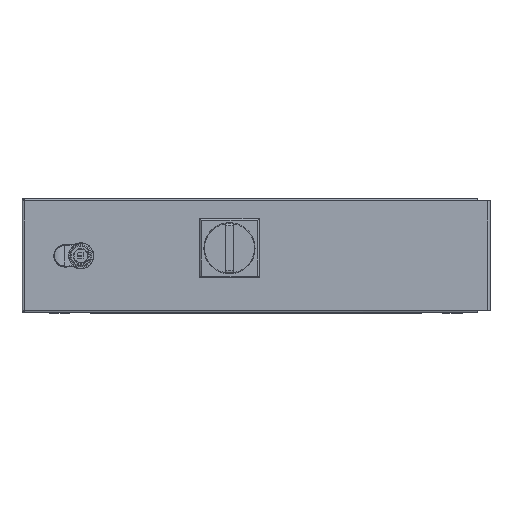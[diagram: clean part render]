
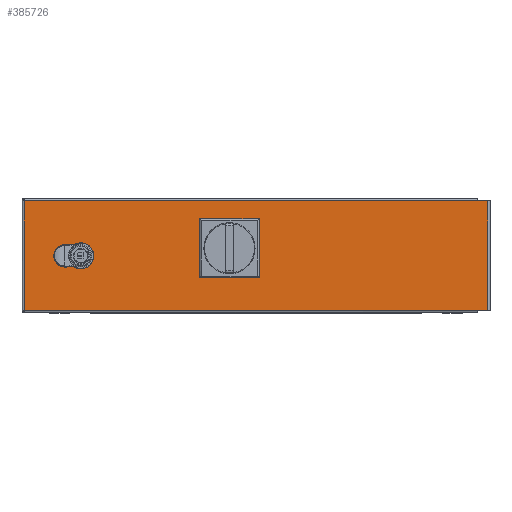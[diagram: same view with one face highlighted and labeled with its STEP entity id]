
A CAD part, top view. The second image highlights one B-rep face of the part: STEP entity #385726.
In plain terms, the highlighted planar face has unit normal (0, 0, 1).
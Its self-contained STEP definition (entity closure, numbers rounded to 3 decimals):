
#382891=CARTESIAN_POINT(' ',(234.752,95.212,104.253));
#382892=VERTEX_POINT(' ',#382891);
#384621=CARTESIAN_POINT(' ',(234.752,95.212,104.253));
#384626=DIRECTION(' ',(-1.,0.,0.));
#384631=VECTOR(' ',#384626,1.);
#384636=LINE('',#384621,#384631);
#384641=CARTESIAN_POINT(' ',(-340.448,95.212,104.253));
#384642=VERTEX_POINT(' ',#384641);
#384646=EDGE_CURVE(' ',#382892,#384642,#384636,.T.);
#384946=CARTESIAN_POINT(' ',(247.952,95.212,104.253));
#384951=DIRECTION(' ',(-1.,0.,0.));
#384956=VECTOR(' ',#384951,1.);
#384961=LINE('',#384946,#384956);
#384966=CARTESIAN_POINT(' ',(247.952,95.212,104.253));
#384967=VERTEX_POINT(' ',#384966);
#384971=EDGE_CURVE(' ',#384967,#382892,#384961,.T.);
#385546=DIRECTION(' ',(-0.,-0.,1.));
#385551=CARTESIAN_POINT(' ',(247.952,-44.188,104.253));
#385556=DIRECTION(' ',(0.,1.,0.));
#385561=AXIS2_PLACEMENT_3D(' ',#385551,#385546,#385556);
#385566=PLANE('NONE',#385561);
#385571=CARTESIAN_POINT(' ',(-340.448,-44.188,104.253));
#385576=DIRECTION(' ',(1.,0.,0.));
#385581=VECTOR(' ',#385576,1.);
#385586=LINE('',#385571,#385581);
#385591=CARTESIAN_POINT(' ',(-340.448,-44.188,104.253));
#385592=VERTEX_POINT(' ',#385591);
#385596=CARTESIAN_POINT(' ',(234.752,-44.188,104.253));
#385597=VERTEX_POINT(' ',#385596);
#385601=EDGE_CURVE(' ',#385592,#385597,#385586,.T.);
#385606=ORIENTED_EDGE(' ',*,*,#385601,.T.);
#385611=CARTESIAN_POINT(' ',(234.752,-44.188,104.253));
#385616=DIRECTION(' ',(1.,0.,0.));
#385621=VECTOR(' ',#385616,1.);
#385626=LINE('',#385611,#385621);
#385631=CARTESIAN_POINT(' ',(247.952,-44.188,104.253));
#385632=VERTEX_POINT(' ',#385631);
#385636=EDGE_CURVE(' ',#385597,#385632,#385626,.T.);
#385641=ORIENTED_EDGE(' ',*,*,#385636,.T.);
#385646=CARTESIAN_POINT(' ',(247.952,95.212,104.253));
#385651=DIRECTION(' ',(0.,-1.,0.));
#385656=VECTOR(' ',#385651,1.);
#385661=LINE('',#385646,#385656);
#385666=EDGE_CURVE(' ',#384967,#385632,#385661,.T.);
#385671=ORIENTED_EDGE(' ',*,*,#385666,.F.);
#385676=ORIENTED_EDGE(' ',*,*,#384971,.T.);
#385681=ORIENTED_EDGE(' ',*,*,#384646,.T.);
#385686=CARTESIAN_POINT(' ',(-340.448,95.212,104.253));
#385691=DIRECTION(' ',(0.,-1.,0.));
#385696=VECTOR(' ',#385691,1.);
#385701=LINE('',#385686,#385696);
#385706=EDGE_CURVE(' ',#384642,#385592,#385701,.T.);
#385711=ORIENTED_EDGE(' ',*,*,#385706,.T.);
#385716=EDGE_LOOP(' ',(#385606,#385641,#385671,#385676,#385681,#385711));
#385721=FACE_OUTER_BOUND(' ',#385716,.T.);
#385726=ADVANCED_FACE('NONE',(#385721),#385566,.T.);
